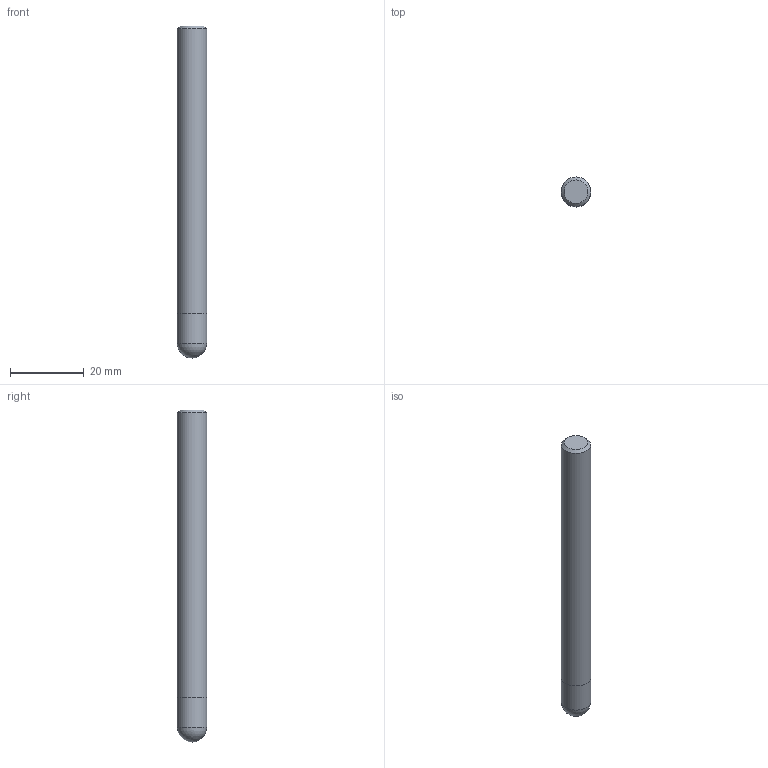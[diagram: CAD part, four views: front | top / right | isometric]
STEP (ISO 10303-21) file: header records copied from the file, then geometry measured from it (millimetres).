
FILE_DESCRIPTION((''),'2;1');
FILE_NAME('C:\Users\nsx150\AppData\Local\Temp\Mastercam 2021\98T1Q6BTT1\TEMP.step','2021-10-21T14:55:35',(''),(''),'STEP Write','Mastercam 2021 ... CNC Software, Inc.','');
FILE_SCHEMA(('AUTOMOTIVE_DESIGN'));
Length unit declared in the file: millimetre
Products named in the file (1): None
Bounding box: 8 x 8 x 90 mm (x, y, z)
Volume: 4449.4 mm3; surface area: 2400.1 mm2
Topology: 2 solids, 2 shells, 7 faces, 10 edges, 6 vertices
Faces by surface type: plane 3, cylinder 2, sphere 1, cone 1
Full cylindrical faces by diameter (mm): 8 x2
Entity records: 169 total; most frequent: DIRECTION 28, CARTESIAN_POINT 19, AXIS2_PLACEMENT_3D 14, ORIENTED_EDGE 10, EDGE_LOOP 10, STYLED_ITEM 10, ADVANCED_FACE 7, VERTEX_POINT 5
